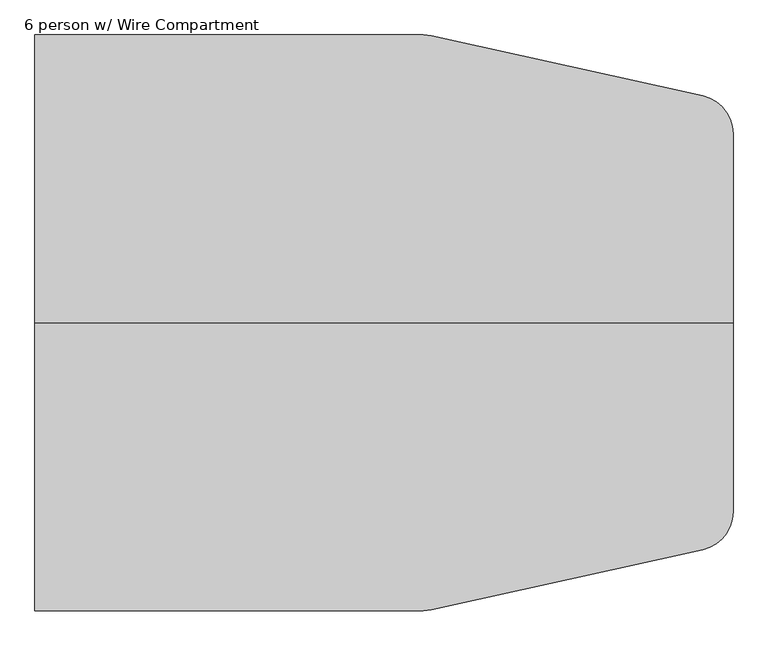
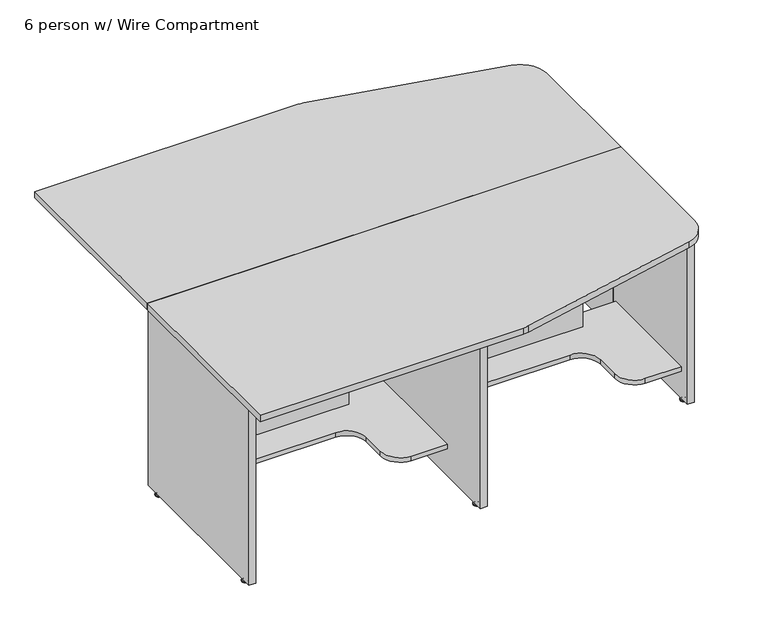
"""IFC4 building model written with IfcOpenShell, lengths in millimetres: furniture geometry, Nova Solutions - Collaboration Table - Boat_6-8 person : 6 person w/ Wire Compartment."""

from ifc_helpers import new_model, si_unit, point, frame, frame_2d, origin, place, context, project, spatial, polyline, circle_curve, ellipse_curve, trimmed, segment, composite_curve, outline, extrude, source, transform, mapped, element, save
from ifc_brep_helpers import plane_surface, cylinder_surface, revolved_surface, advanced_brep


def furniture_6_person_w_wire_compartment_cabafdbb(model_context):
    return source(origin(), model_context, "Body", "SolidModel", [
        advanced_brep(
        [(916.6776506, 448.9859375, 11.1125), (910.0, 448.9859375, 11.1125), (903.3223494, 448.9859375, 11.1125), (916.6776506, 448.9859375, 9.525), (903.3223494, 448.9859375, 9.525), (921.8855135, 448.9859375, 4.7748687), (898.1144865, 448.9859375, 4.7748687), (922.7466506, 448.9859375, 3.989419), (897.2533494, 448.9859375, 3.989419), (922.7466506, 448.9859375, 3.175), (897.2533494, 448.9859375, 3.175), (921.8959119, 448.9859375, 0.0), (898.1040881, 448.9859375, 0.0), (910.0, 448.9859375, 0.0)],
        [
            (0, 1),
            (1, 2),
            (2, 0, circle_curve(frame((910.0, 448.9859375, 11.1125), z_axis=(0.0, 0.0, 1.0), x_axis=(-1.0, 0.0, 0.0)), 6.6776506)),
            (0, 2, circle_curve(frame((910.0, 448.9859375, 11.1125), z_axis=(0.0, 0.0, 1.0), x_axis=(-1.0, 0.0, 0.0)), 6.6776506)),
            (3, 0),
            (2, 4),
            (4, 3, circle_curve(frame((910.0, 448.9859375, 9.525), z_axis=(0.0, 0.0, 1.0), x_axis=(-1.0, 0.0, 0.0)), 6.6776506)),
            (3, 4, circle_curve(frame((910.0, 448.9859375, 9.525), z_axis=(0.0, 0.0, 1.0), x_axis=(-1.0, 0.0, 0.0)), 6.6776506)),
            (5, 3, circle_curve(frame((922.9320627, 448.9859375, 11.1521822), z_axis=(0.0, 1.0, 0.0), x_axis=(-1.0, 0.0, 0.0)), 6.462615)),
            (4, 6, circle_curve(frame((897.0679373, 448.9859375, 11.1521822), z_axis=(0.0, 1.0, 0.0), x_axis=(1.0, 0.0, 0.0)), 6.462615)),
            (6, 5, circle_curve(frame((910.0, 448.9859375, 4.7748687), z_axis=(0.0, 0.0, 1.0), x_axis=(-1.0, 0.0, 0.0)), 11.8855135)),
            (5, 6, circle_curve(frame((910.0, 448.9859375, 4.7748687), z_axis=(0.0, 0.0, 1.0), x_axis=(-1.0, 0.0, 0.0)), 11.8855135)),
            (7, 5, circle_curve(frame((921.7124632, 448.9859375, 3.7203591), z_axis=(0.0, -1.0, 0.0), x_axis=(-1.0, 0.0, 0.0)), 1.0686145)),
            (6, 8, circle_curve(frame((898.2875368, 448.9859375, 3.7203591), z_axis=(0.0, -1.0, 0.0), x_axis=(1.0, 0.0, 0.0)), 1.0686145)),
            (8, 7, circle_curve(frame((910.0, 448.9859375, 3.989419), z_axis=(0.0, 0.0, 1.0), x_axis=(-1.0, 0.0, 0.0)), 12.7466506)),
            (7, 8, circle_curve(frame((910.0, 448.9859375, 3.989419), z_axis=(0.0, 0.0, 1.0), x_axis=(-1.0, 0.0, 0.0)), 12.7466506)),
            (9, 7),
            (8, 10),
            (10, 9, circle_curve(frame((910.0, 448.9859375, 3.175), z_axis=(0.0, 0.0, 1.0), x_axis=(-1.0, 0.0, 0.0)), 12.7466506)),
            (9, 10, circle_curve(frame((910.0, 448.9859375, 3.175), z_axis=(0.0, 0.0, 1.0), x_axis=(-1.0, 0.0, 0.0)), 12.7466506)),
            (11, 9),
            (10, 12),
            (12, 11, circle_curve(frame((910.0, 448.9859375, 0.0), z_axis=(0.0, 0.0, 1.0), x_axis=(-1.0, 0.0, 0.0)), 11.8959119)),
            (11, 12, circle_curve(frame((910.0, 448.9859375, 0.0), z_axis=(0.0, 0.0, 1.0), x_axis=(-1.0, 0.0, 0.0)), 11.8959119)),
            (13, 11),
            (12, 13),
        ],
        [
            plane_surface(frame((910.0, 448.9859375, 11.1125), z_axis=(0.0, 0.0, 1.0), x_axis=(-1.0, 0.0, 0.0))),
            cylinder_surface(frame((910.0, 448.9859375, 43.2095994), z_axis=(0.0, 0.0, -1.0), x_axis=(-1.0, 0.0, 0.0)), 6.6776506),
            revolved_surface(trimmed(ellipse_curve(frame((897.0679373, 448.9859375, 11.1521822), z_axis=(0.0, 1.0, 0.0), x_axis=(1.0, 0.0, 0.0)), 6.462615, 6.462615), [point((903.3223494, 448.9859375, 9.525))], [point((898.1144865, 448.9859375, 4.7748687))], True, "CARTESIAN"), (910.0, 448.9859375, 43.2095994), (0.0, 0.0, -1.0)),
            revolved_surface(trimmed(ellipse_curve(frame((898.2875368, 448.9859375, 3.7203591), z_axis=(0.0, -1.0, 0.0), x_axis=(1.0, 0.0, 0.0)), 1.0686145, 1.0686145), [point((898.1144865, 448.9859375, 4.7748687))], [point((897.2533494, 448.9859375, 3.989419))], True, "CARTESIAN"), (910.0, 448.9859375, 43.2095994), (0.0, 0.0, -1.0)),
            cylinder_surface(frame((910.0, 448.9859375, 43.2095994), z_axis=(0.0, 0.0, -1.0), x_axis=(-1.0, 0.0, 0.0)), 12.7466506),
            revolved_surface(polyline([(897.2533494, 448.9859375, 3.175), (898.1040881, 448.9859375, 0.0)]), (910.0, 448.9859375, 43.2095994), (0.0, 0.0, -1.0)),
            plane_surface(frame((910.0, 448.9859375, 0.0), z_axis=(0.0, 0.0, -1.0), x_axis=(-1.0, 0.0, 0.0))),
        ],
        [
            (0, [[1, 2, 3]]),
            (0, [[-2, -1, 4]]),
            (1, [[5, -3, 6, 7]]),
            (1, [[-6, -4, -5, 8]]),
            (2, [[9, -7, 10, 11]]),
            (2, [[-10, -8, -9, 12]]),
            (3, [[13, -11, 14, 15]]),
            (3, [[-14, -12, -13, 16]]),
            (4, [[17, -15, 18, 19]]),
            (4, [[-18, -16, -17, 20]]),
            (5, [[21, -19, 22, 23]]),
            (5, [[-22, -20, -21, 24]]),
            (6, [[25, -23, 26]]),
            (6, [[-26, -24, -25]]),
        ],
    ),
        advanced_brep(
        [(916.6776506, 50.4140625, 11.1125), (910.0, 50.4140625, 11.1125), (903.3223494, 50.4140625, 11.1125), (916.6776506, 50.4140625, 9.525), (903.3223494, 50.4140625, 9.525), (921.8855135, 50.4140625, 4.7748687), (898.1144865, 50.4140625, 4.7748687), (922.7466506, 50.4140625, 3.989419), (897.2533494, 50.4140625, 3.989419), (922.7466506, 50.4140625, 3.175), (897.2533494, 50.4140625, 3.175), (921.8959119, 50.4140625, 0.0), (898.1040881, 50.4140625, 0.0), (910.0, 50.4140625, 0.0)],
        [
            (0, 1),
            (1, 2),
            (2, 0, circle_curve(frame((910.0, 50.4140625, 11.1125), z_axis=(0.0, 0.0, 1.0), x_axis=(-1.0, 0.0, 0.0)), 6.6776506)),
            (0, 2, circle_curve(frame((910.0, 50.4140625, 11.1125), z_axis=(0.0, 0.0, 1.0), x_axis=(-1.0, 0.0, 0.0)), 6.6776506)),
            (3, 0),
            (2, 4),
            (4, 3, circle_curve(frame((910.0, 50.4140625, 9.525), z_axis=(0.0, 0.0, 1.0), x_axis=(-1.0, 0.0, 0.0)), 6.6776506)),
            (3, 4, circle_curve(frame((910.0, 50.4140625, 9.525), z_axis=(0.0, 0.0, 1.0), x_axis=(-1.0, 0.0, 0.0)), 6.6776506)),
            (5, 3, circle_curve(frame((922.9320627, 50.4140625, 11.1521822), z_axis=(0.0, 1.0, 0.0), x_axis=(-1.0, 0.0, 0.0)), 6.462615)),
            (4, 6, circle_curve(frame((897.0679373, 50.4140625, 11.1521822), z_axis=(0.0, 1.0, 0.0), x_axis=(1.0, 0.0, 0.0)), 6.462615)),
            (6, 5, circle_curve(frame((910.0, 50.4140625, 4.7748687), z_axis=(0.0, 0.0, 1.0), x_axis=(-1.0, 0.0, 0.0)), 11.8855135)),
            (5, 6, circle_curve(frame((910.0, 50.4140625, 4.7748687), z_axis=(0.0, 0.0, 1.0), x_axis=(-1.0, 0.0, 0.0)), 11.8855135)),
            (7, 5, circle_curve(frame((921.7124632, 50.4140625, 3.7203591), z_axis=(0.0, -1.0, 0.0), x_axis=(-1.0, 0.0, 0.0)), 1.0686145)),
            (6, 8, circle_curve(frame((898.2875368, 50.4140625, 3.7203591), z_axis=(0.0, -1.0, 0.0), x_axis=(1.0, 0.0, 0.0)), 1.0686145)),
            (8, 7, circle_curve(frame((910.0, 50.4140625, 3.989419), z_axis=(0.0, 0.0, 1.0), x_axis=(-1.0, 0.0, 0.0)), 12.7466506)),
            (7, 8, circle_curve(frame((910.0, 50.4140625, 3.989419), z_axis=(0.0, 0.0, 1.0), x_axis=(-1.0, 0.0, 0.0)), 12.7466506)),
            (9, 7),
            (8, 10),
            (10, 9, circle_curve(frame((910.0, 50.4140625, 3.175), z_axis=(0.0, 0.0, 1.0), x_axis=(-1.0, 0.0, 0.0)), 12.7466506)),
            (9, 10, circle_curve(frame((910.0, 50.4140625, 3.175), z_axis=(0.0, 0.0, 1.0), x_axis=(-1.0, 0.0, 0.0)), 12.7466506)),
            (11, 9),
            (10, 12),
            (12, 11, circle_curve(frame((910.0, 50.4140625, 0.0), z_axis=(0.0, 0.0, 1.0), x_axis=(-1.0, 0.0, 0.0)), 11.8959119)),
            (11, 12, circle_curve(frame((910.0, 50.4140625, 0.0), z_axis=(0.0, 0.0, 1.0), x_axis=(-1.0, 0.0, 0.0)), 11.8959119)),
            (13, 11),
            (12, 13),
        ],
        [
            plane_surface(frame((910.0, 50.4140625, 11.1125), z_axis=(0.0, 0.0, 1.0), x_axis=(-1.0, 0.0, 0.0))),
            cylinder_surface(frame((910.0, 50.4140625, 43.2095994), z_axis=(0.0, 0.0, -1.0), x_axis=(-1.0, 0.0, 0.0)), 6.6776506),
            revolved_surface(trimmed(ellipse_curve(frame((897.0679373, 50.4140625, 11.1521822), z_axis=(0.0, 1.0, 0.0), x_axis=(1.0, 0.0, 0.0)), 6.462615, 6.462615), [point((903.3223494, 50.4140625, 9.525))], [point((898.1144865, 50.4140625, 4.7748687))], True, "CARTESIAN"), (910.0, 50.4140625, 43.2095994), (0.0, 0.0, -1.0)),
            revolved_surface(trimmed(ellipse_curve(frame((898.2875368, 50.4140625, 3.7203591), z_axis=(0.0, -1.0, 0.0), x_axis=(1.0, 0.0, 0.0)), 1.0686145, 1.0686145), [point((898.1144865, 50.4140625, 4.7748687))], [point((897.2533494, 50.4140625, 3.989419))], True, "CARTESIAN"), (910.0, 50.4140625, 43.2095994), (0.0, 0.0, -1.0)),
            cylinder_surface(frame((910.0, 50.4140625, 43.2095994), z_axis=(0.0, 0.0, -1.0), x_axis=(-1.0, 0.0, 0.0)), 12.7466506),
            revolved_surface(polyline([(897.2533494, 50.4140625, 3.175), (898.1040881, 50.4140625, 0.0)]), (910.0, 50.4140625, 43.2095994), (0.0, 0.0, -1.0)),
            plane_surface(frame((910.0, 50.4140625, 0.0), z_axis=(0.0, 0.0, -1.0), x_axis=(-1.0, 0.0, 0.0))),
        ],
        [
            (0, [[1, 2, 3]]),
            (0, [[-2, -1, 4]]),
            (1, [[5, -3, 6, 7]]),
            (1, [[-6, -4, -5, 8]]),
            (2, [[9, -7, 10, 11]]),
            (2, [[-10, -8, -9, 12]]),
            (3, [[13, -11, 14, 15]]),
            (3, [[-14, -12, -13, 16]]),
            (4, [[17, -15, 18, 19]]),
            (4, [[-18, -16, -17, 20]]),
            (5, [[21, -19, 22, 23]]),
            (5, [[-22, -20, -21, 24]]),
            (6, [[25, -23, 26]]),
            (6, [[-26, -24, -25]]),
        ],
    ),
        extrude(outline(polyline([(922.85, 1.4), (897.15, 1.4), (897.15, 498.0), (922.85, 498.0), (922.85, 1.4)])), frame((0.0, 0.0, 15.6), z_axis=(0.0, 0.0, 1.0), x_axis=(1.0, 0.0, 0.0)), (0.0, 0.0, 1.0), 720.7),
        extrude(outline(composite_curve([segment(trimmed(circle_curve(frame_2d((108.0350272, 656.4)), 101.6), [point((108.0350272, 758.0))], [point((130.025292, 755.5916743))], False, "CARTESIAN"), True, "CONTINUOUS"), segment(polyline([(130.025292, 755.5916743), (844.6402648, 597.165349)]), True, "CONTINUOUS"), segment(trimmed(circle_curve(frame_2d((822.65, 497.9736747)), 101.6), [point((844.6402648, 597.165349))], [point((924.25, 497.9736747))], False, "CARTESIAN"), True, "CONTINUOUS"), segment(polyline([(924.25, 497.9736747), (924.25, 0.0), (-914.276, 0.0), (-914.276, 758.0), (108.0350272, 758.0)]), True, "CONTINUOUS")], self_intersect=False)), frame((0.0, 0.0, 736.3), z_axis=(0.0, 0.0, 1.0), x_axis=(1.0, 0.0, 0.0)), (0.0, 0.0, 1.0), 25.7),
        extrude(outline(polyline([(736.3, -887.176), (145.5, -887.176), (145.5, -183.85), (507.4, -183.85), (507.4, -12.85), (736.3, -12.85), (736.3, -887.176)])), frame((0.0, -88.6, 0.0), z_axis=(0.0, 1.0, 0.0), x_axis=(0.0, 0.0, 1.0)), (0.0, 0.0, 1.0), 19.2),
        extrude(outline(composite_curve([segment(polyline([(-887.176, -14.1), (-12.85, -14.1), (-12.85, -457.2625), (-152.65, -457.2625)]), True, "CONTINUOUS"), segment(trimmed(circle_curve(frame_2d((-152.65, -381.0625)), 76.2), [point((-152.65, -457.2625))], [point((-228.85, -381.0625))], False, "CARTESIAN"), True, "CONTINUOUS"), segment(polyline([(-228.85, -381.0625), (-228.85, -286.6)]), True, "CONTINUOUS"), segment(trimmed(circle_curve(frame_2d((-305.05, -286.6)), 76.2), [point((-228.85, -286.6))], [point((-305.05, -210.4))], True, "CARTESIAN"), True, "CONTINUOUS"), segment(polyline([(-305.05, -210.4), (-887.176, -210.4), (-887.176, -14.1)]), True, "CONTINUOUS")], self_intersect=False)), frame((0.0, 0.0, 126.3), z_axis=(0.0, 0.0, 1.0), x_axis=(1.0, 0.0, 0.0)), (0.0, 0.0, 1.0), 19.2),
        advanced_brep(
        [(-906.7036506, -631.3859375, 11.1125), (-900.026, -631.3859375, 11.1125), (-893.3483494, -631.3859375, 11.1125), (-906.7036506, -631.3859375, 9.525), (-893.3483494, -631.3859375, 9.525), (-911.9115135, -631.3859375, 4.7748687), (-888.1404865, -631.3859375, 4.7748687), (-912.7726506, -631.3859375, 3.989419), (-887.2793494, -631.3859375, 3.989419), (-912.7726506, -631.3859375, 3.175), (-887.2793494, -631.3859375, 3.175), (-911.9219119, -631.3859375, 0.0), (-888.1300881, -631.3859375, 0.0), (-900.026, -631.3859375, 0.0)],
        [
            (0, 1),
            (1, 2),
            (2, 0, circle_curve(frame((-900.026, -631.3859375, 11.1125), z_axis=(0.0, 0.0, 1.0), x_axis=(1.0, 0.0, 0.0)), 6.6776506)),
            (0, 2, circle_curve(frame((-900.026, -631.3859375, 11.1125), z_axis=(0.0, 0.0, 1.0), x_axis=(1.0, 0.0, 0.0)), 6.6776506)),
            (3, 0),
            (2, 4),
            (4, 3, circle_curve(frame((-900.026, -631.3859375, 9.525), z_axis=(0.0, 0.0, 1.0), x_axis=(1.0, 0.0, 0.0)), 6.6776506)),
            (3, 4, circle_curve(frame((-900.026, -631.3859375, 9.525), z_axis=(0.0, 0.0, 1.0), x_axis=(1.0, 0.0, 0.0)), 6.6776506)),
            (5, 3, circle_curve(frame((-912.9580627, -631.3859375, 11.1521822), z_axis=(0.0, -1.0, 0.0), x_axis=(1.0, 0.0, 0.0)), 6.462615)),
            (4, 6, circle_curve(frame((-887.0939373, -631.3859375, 11.1521822), z_axis=(0.0, -1.0, 0.0), x_axis=(-1.0, 0.0, 0.0)), 6.462615)),
            (6, 5, circle_curve(frame((-900.026, -631.3859375, 4.7748687), z_axis=(0.0, 0.0, 1.0), x_axis=(1.0, 0.0, 0.0)), 11.8855135)),
            (5, 6, circle_curve(frame((-900.026, -631.3859375, 4.7748687), z_axis=(0.0, 0.0, 1.0), x_axis=(1.0, 0.0, 0.0)), 11.8855135)),
            (7, 5, circle_curve(frame((-911.7384632, -631.3859375, 3.7203591), z_axis=(0.0, 1.0, 0.0), x_axis=(1.0, 0.0, 0.0)), 1.0686145)),
            (6, 8, circle_curve(frame((-888.3135368, -631.3859375, 3.7203591), z_axis=(0.0, 1.0, 0.0), x_axis=(-1.0, 0.0, 0.0)), 1.0686145)),
            (8, 7, circle_curve(frame((-900.026, -631.3859375, 3.989419), z_axis=(0.0, 0.0, 1.0), x_axis=(1.0, 0.0, 0.0)), 12.7466506)),
            (7, 8, circle_curve(frame((-900.026, -631.3859375, 3.989419), z_axis=(0.0, 0.0, 1.0), x_axis=(1.0, 0.0, 0.0)), 12.7466506)),
            (9, 7),
            (8, 10),
            (10, 9, circle_curve(frame((-900.026, -631.3859375, 3.175), z_axis=(0.0, 0.0, 1.0), x_axis=(1.0, 0.0, 0.0)), 12.7466506)),
            (9, 10, circle_curve(frame((-900.026, -631.3859375, 3.175), z_axis=(0.0, 0.0, 1.0), x_axis=(1.0, 0.0, 0.0)), 12.7466506)),
            (11, 9),
            (10, 12),
            (12, 11, circle_curve(frame((-900.026, -631.3859375, 0.0), z_axis=(0.0, 0.0, 1.0), x_axis=(1.0, 0.0, 0.0)), 11.8959119)),
            (11, 12, circle_curve(frame((-900.026, -631.3859375, 0.0), z_axis=(0.0, 0.0, 1.0), x_axis=(1.0, 0.0, 0.0)), 11.8959119)),
            (13, 11),
            (12, 13),
        ],
        [
            plane_surface(frame((-900.026, -631.3859375, 11.1125), z_axis=(0.0, 0.0, 1.0), x_axis=(1.0, 0.0, 0.0))),
            cylinder_surface(frame((-900.026, -631.3859375, 43.2095994), z_axis=(0.0, 0.0, -1.0), x_axis=(1.0, 0.0, 0.0)), 6.6776506),
            revolved_surface(trimmed(ellipse_curve(frame((-887.0939373, -631.3859375, 11.1521822), z_axis=(0.0, -1.0, 0.0), x_axis=(-1.0, 0.0, 0.0)), 6.462615, 6.462615), [point((-893.3483494, -631.3859375, 9.525))], [point((-888.1404865, -631.3859375, 4.7748687))], True, "CARTESIAN"), (-900.026, -631.3859375, 43.2095994), (0.0, 0.0, -1.0)),
            revolved_surface(trimmed(ellipse_curve(frame((-888.3135368, -631.3859375, 3.7203591), z_axis=(0.0, 1.0, 0.0), x_axis=(-1.0, 0.0, 0.0)), 1.0686145, 1.0686145), [point((-888.1404865, -631.3859375, 4.7748687))], [point((-887.2793494, -631.3859375, 3.989419))], True, "CARTESIAN"), (-900.026, -631.3859375, 43.2095994), (0.0, 0.0, -1.0)),
            cylinder_surface(frame((-900.026, -631.3859375, 43.2095994), z_axis=(0.0, 0.0, -1.0), x_axis=(1.0, 0.0, 0.0)), 12.7466506),
            revolved_surface(polyline([(-887.2793494, -631.3859375, 3.175), (-888.1300881, -631.3859375, 0.0)]), (-900.026, -631.3859375, 43.2095994), (0.0, 0.0, -1.0)),
            plane_surface(frame((-900.026, -631.3859375, 0.0), z_axis=(0.0, 0.0, -1.0), x_axis=(1.0, 0.0, 0.0))),
        ],
        [
            (0, [[1, 2, 3]]),
            (0, [[-2, -1, 4]]),
            (1, [[5, -3, 6, 7]]),
            (1, [[-6, -4, -5, 8]]),
            (2, [[9, -7, 10, 11]]),
            (2, [[-10, -8, -9, 12]]),
            (3, [[13, -11, 14, 15]]),
            (3, [[-14, -12, -13, 16]]),
            (4, [[17, -15, 18, 19]]),
            (4, [[-18, -16, -17, 20]]),
            (5, [[21, -19, 22, 23]]),
            (5, [[-22, -20, -21, 24]]),
            (6, [[25, -23, 26]]),
            (6, [[-26, -24, -25]]),
        ],
    ),
        advanced_brep(
        [(-906.7036506, -50.4140625, 11.1125), (-900.026, -50.4140625, 11.1125), (-893.3483494, -50.4140625, 11.1125), (-906.7036506, -50.4140625, 9.525), (-893.3483494, -50.4140625, 9.525), (-911.9115135, -50.4140625, 4.7748687), (-888.1404865, -50.4140625, 4.7748687), (-912.7726506, -50.4140625, 3.989419), (-887.2793494, -50.4140625, 3.989419), (-912.7726506, -50.4140625, 3.175), (-887.2793494, -50.4140625, 3.175), (-911.9219119, -50.4140625, 0.0), (-888.1300881, -50.4140625, 0.0), (-900.026, -50.4140625, 0.0)],
        [
            (0, 1),
            (1, 2),
            (2, 0, circle_curve(frame((-900.026, -50.4140625, 11.1125), z_axis=(0.0, 0.0, 1.0), x_axis=(1.0, 0.0, 0.0)), 6.6776506)),
            (0, 2, circle_curve(frame((-900.026, -50.4140625, 11.1125), z_axis=(0.0, 0.0, 1.0), x_axis=(1.0, 0.0, 0.0)), 6.6776506)),
            (3, 0),
            (2, 4),
            (4, 3, circle_curve(frame((-900.026, -50.4140625, 9.525), z_axis=(0.0, 0.0, 1.0), x_axis=(1.0, 0.0, 0.0)), 6.6776506)),
            (3, 4, circle_curve(frame((-900.026, -50.4140625, 9.525), z_axis=(0.0, 0.0, 1.0), x_axis=(1.0, 0.0, 0.0)), 6.6776506)),
            (5, 3, circle_curve(frame((-912.9580627, -50.4140625, 11.1521822), z_axis=(0.0, -1.0, 0.0), x_axis=(1.0, 0.0, 0.0)), 6.462615)),
            (4, 6, circle_curve(frame((-887.0939373, -50.4140625, 11.1521822), z_axis=(0.0, -1.0, 0.0), x_axis=(-1.0, 0.0, 0.0)), 6.462615)),
            (6, 5, circle_curve(frame((-900.026, -50.4140625, 4.7748687), z_axis=(0.0, 0.0, 1.0), x_axis=(1.0, 0.0, 0.0)), 11.8855135)),
            (5, 6, circle_curve(frame((-900.026, -50.4140625, 4.7748687), z_axis=(0.0, 0.0, 1.0), x_axis=(1.0, 0.0, 0.0)), 11.8855135)),
            (7, 5, circle_curve(frame((-911.7384632, -50.4140625, 3.7203591), z_axis=(0.0, 1.0, 0.0), x_axis=(1.0, 0.0, 0.0)), 1.0686145)),
            (6, 8, circle_curve(frame((-888.3135368, -50.4140625, 3.7203591), z_axis=(0.0, 1.0, 0.0), x_axis=(-1.0, 0.0, 0.0)), 1.0686145)),
            (8, 7, circle_curve(frame((-900.026, -50.4140625, 3.989419), z_axis=(0.0, 0.0, 1.0), x_axis=(1.0, 0.0, 0.0)), 12.7466506)),
            (7, 8, circle_curve(frame((-900.026, -50.4140625, 3.989419), z_axis=(0.0, 0.0, 1.0), x_axis=(1.0, 0.0, 0.0)), 12.7466506)),
            (9, 7),
            (8, 10),
            (10, 9, circle_curve(frame((-900.026, -50.4140625, 3.175), z_axis=(0.0, 0.0, 1.0), x_axis=(1.0, 0.0, 0.0)), 12.7466506)),
            (9, 10, circle_curve(frame((-900.026, -50.4140625, 3.175), z_axis=(0.0, 0.0, 1.0), x_axis=(1.0, 0.0, 0.0)), 12.7466506)),
            (11, 9),
            (10, 12),
            (12, 11, circle_curve(frame((-900.026, -50.4140625, 0.0), z_axis=(0.0, 0.0, 1.0), x_axis=(1.0, 0.0, 0.0)), 11.8959119)),
            (11, 12, circle_curve(frame((-900.026, -50.4140625, 0.0), z_axis=(0.0, 0.0, 1.0), x_axis=(1.0, 0.0, 0.0)), 11.8959119)),
            (13, 11),
            (12, 13),
        ],
        [
            plane_surface(frame((-900.026, -50.4140625, 11.1125), z_axis=(0.0, 0.0, 1.0), x_axis=(1.0, 0.0, 0.0))),
            cylinder_surface(frame((-900.026, -50.4140625, 43.2095994), z_axis=(0.0, 0.0, -1.0), x_axis=(1.0, 0.0, 0.0)), 6.6776506),
            revolved_surface(trimmed(ellipse_curve(frame((-887.0939373, -50.4140625, 11.1521822), z_axis=(0.0, -1.0, 0.0), x_axis=(-1.0, 0.0, 0.0)), 6.462615, 6.462615), [point((-893.3483494, -50.4140625, 9.525))], [point((-888.1404865, -50.4140625, 4.7748687))], True, "CARTESIAN"), (-900.026, -50.4140625, 43.2095994), (0.0, 0.0, -1.0)),
            revolved_surface(trimmed(ellipse_curve(frame((-888.3135368, -50.4140625, 3.7203591), z_axis=(0.0, 1.0, 0.0), x_axis=(-1.0, 0.0, 0.0)), 1.0686145, 1.0686145), [point((-888.1404865, -50.4140625, 4.7748687))], [point((-887.2793494, -50.4140625, 3.989419))], True, "CARTESIAN"), (-900.026, -50.4140625, 43.2095994), (0.0, 0.0, -1.0)),
            cylinder_surface(frame((-900.026, -50.4140625, 43.2095994), z_axis=(0.0, 0.0, -1.0), x_axis=(1.0, 0.0, 0.0)), 12.7466506),
            revolved_surface(polyline([(-887.2793494, -50.4140625, 3.175), (-888.1300881, -50.4140625, 0.0)]), (-900.026, -50.4140625, 43.2095994), (0.0, 0.0, -1.0)),
            plane_surface(frame((-900.026, -50.4140625, 0.0), z_axis=(0.0, 0.0, -1.0), x_axis=(1.0, 0.0, 0.0))),
        ],
        [
            (0, [[1, 2, 3]]),
            (0, [[-2, -1, 4]]),
            (1, [[5, -3, 6, 7]]),
            (1, [[-6, -4, -5, 8]]),
            (2, [[9, -7, 10, 11]]),
            (2, [[-10, -8, -9, 12]]),
            (3, [[13, -11, 14, 15]]),
            (3, [[-14, -12, -13, 16]]),
            (4, [[17, -15, 18, 19]]),
            (4, [[-18, -16, -17, 20]]),
            (5, [[21, -19, 22, 23]]),
            (5, [[-22, -20, -21, 24]]),
            (6, [[25, -23, 26]]),
            (6, [[-26, -24, -25]]),
        ],
    ),
        extrude(outline(polyline([(-912.876, -1.4), (-887.176, -1.4), (-887.176, -680.4), (-912.876, -680.4), (-912.876, -1.4)])), frame((0.0, 0.0, 15.6), z_axis=(0.0, 0.0, 1.0), x_axis=(1.0, 0.0, 0.0)), (0.0, 0.0, 1.0), 720.7),
        advanced_brep(
        [(6.6776506, -631.3859375, 11.1125), (-6.6776506, -631.3859375, 11.1125), (0.0, -631.3859375, 11.1125), (6.6776506, -631.3859375, 9.525), (-6.6776506, -631.3859375, 9.525), (11.8855135, -631.3859375, 4.7748687), (-11.8855135, -631.3859375, 4.7748687), (12.7466506, -631.3859375, 3.989419), (-12.7466506, -631.3859375, 3.989419), (12.7466506, -631.3859375, 3.175), (-12.7466506, -631.3859375, 3.175), (11.8959119, -631.3859375, 0.0), (-11.8959119, -631.3859375, 0.0), (0.0, -631.3859375, 0.0)],
        [
            (0, 1, circle_curve(frame((0.0, -631.3859375, 11.1125), z_axis=(0.0, 0.0, 1.0), x_axis=(-1.0, 0.0, 0.0)), 6.6776506)),
            (1, 2),
            (2, 0),
            (1, 0, circle_curve(frame((0.0, -631.3859375, 11.1125), z_axis=(0.0, 0.0, 1.0), x_axis=(-1.0, 0.0, 0.0)), 6.6776506)),
            (3, 4, circle_curve(frame((0.0, -631.3859375, 9.525), z_axis=(0.0, 0.0, 1.0), x_axis=(-1.0, 0.0, 0.0)), 6.6776506)),
            (4, 1),
            (0, 3),
            (4, 3, circle_curve(frame((0.0, -631.3859375, 9.525), z_axis=(0.0, 0.0, 1.0), x_axis=(-1.0, 0.0, 0.0)), 6.6776506)),
            (5, 6, circle_curve(frame((0.0, -631.3859375, 4.7748687), z_axis=(0.0, 0.0, 1.0), x_axis=(-1.0, 0.0, 0.0)), 11.8855135)),
            (6, 4, circle_curve(frame((-12.9320627, -631.3859375, 11.1521822), z_axis=(0.0, -1.0, 0.0), x_axis=(1.0, 0.0, 0.0)), 6.462615)),
            (3, 5, circle_curve(frame((12.9320627, -631.3859375, 11.1521822), z_axis=(0.0, -1.0, 0.0), x_axis=(-1.0, 0.0, 0.0)), 6.462615)),
            (6, 5, circle_curve(frame((0.0, -631.3859375, 4.7748687), z_axis=(0.0, 0.0, 1.0), x_axis=(-1.0, 0.0, 0.0)), 11.8855135)),
            (7, 8, circle_curve(frame((0.0, -631.3859375, 3.989419), z_axis=(0.0, 0.0, 1.0), x_axis=(-1.0, 0.0, 0.0)), 12.7466506)),
            (8, 6, circle_curve(frame((-11.7124632, -631.3859375, 3.7203591), z_axis=(0.0, 1.0, 0.0), x_axis=(1.0, 0.0, 0.0)), 1.0686145)),
            (5, 7, circle_curve(frame((11.7124632, -631.3859375, 3.7203591), z_axis=(0.0, 1.0, 0.0), x_axis=(-1.0, 0.0, 0.0)), 1.0686145)),
            (8, 7, circle_curve(frame((0.0, -631.3859375, 3.989419), z_axis=(0.0, 0.0, 1.0), x_axis=(-1.0, 0.0, 0.0)), 12.7466506)),
            (9, 10, circle_curve(frame((0.0, -631.3859375, 3.175), z_axis=(0.0, 0.0, 1.0), x_axis=(-1.0, 0.0, 0.0)), 12.7466506)),
            (10, 8),
            (7, 9),
            (10, 9, circle_curve(frame((0.0, -631.3859375, 3.175), z_axis=(0.0, 0.0, 1.0), x_axis=(-1.0, 0.0, 0.0)), 12.7466506)),
            (11, 12, circle_curve(frame((0.0, -631.3859375, 0.0), z_axis=(0.0, 0.0, 1.0), x_axis=(-1.0, 0.0, 0.0)), 11.8959119)),
            (12, 10),
            (9, 11),
            (12, 11, circle_curve(frame((0.0, -631.3859375, 0.0), z_axis=(0.0, 0.0, 1.0), x_axis=(-1.0, 0.0, 0.0)), 11.8959119)),
            (13, 12),
            (11, 13),
        ],
        [
            plane_surface(frame((0.0, -631.3859375, 11.1125), z_axis=(0.0, 0.0, 1.0), x_axis=(-1.0, 0.0, 0.0))),
            cylinder_surface(frame((0.0, -631.3859375, 43.2095994), z_axis=(0.0, 0.0, -1.0), x_axis=(-1.0, 0.0, 0.0)), 6.6776506),
            revolved_surface(trimmed(ellipse_curve(frame((-12.9320627, -631.3859375, 11.1521822), z_axis=(0.0, 1.0, 0.0), x_axis=(1.0, 0.0, 0.0)), 6.462615, 6.462615), [point((-6.6776506, -631.3859375, 9.525))], [point((-11.8855135, -631.3859375, 4.7748687))], True, "CARTESIAN"), (0.0, -631.3859375, 43.2095994), (0.0, 0.0, -1.0)),
            revolved_surface(trimmed(ellipse_curve(frame((-11.7124632, -631.3859375, 3.7203591), z_axis=(0.0, -1.0, 0.0), x_axis=(1.0, 0.0, 0.0)), 1.0686145, 1.0686145), [point((-11.8855135, -631.3859375, 4.7748687))], [point((-12.7466506, -631.3859375, 3.989419))], True, "CARTESIAN"), (0.0, -631.3859375, 43.2095994), (0.0, 0.0, -1.0)),
            cylinder_surface(frame((0.0, -631.3859375, 43.2095994), z_axis=(0.0, 0.0, -1.0), x_axis=(-1.0, 0.0, 0.0)), 12.7466506),
            revolved_surface(polyline([(-12.7466506, -631.3859375, 3.175), (-11.8959119, -631.3859375, 0.0)]), (0.0, -631.3859375, 43.2095994), (0.0, 0.0, -1.0)),
            plane_surface(frame((0.0, -631.3859375, 0.0), z_axis=(0.0, 0.0, -1.0), x_axis=(-1.0, 0.0, 0.0))),
        ],
        [
            (0, [[1, 2, 3]]),
            (0, [[4, -3, -2]]),
            (1, [[5, 6, -1, 7]]),
            (1, [[8, -7, -4, -6]]),
            (2, [[9, 10, -5, 11]]),
            (2, [[12, -11, -8, -10]]),
            (3, [[13, 14, -9, 15]]),
            (3, [[16, -15, -12, -14]]),
            (4, [[17, 18, -13, 19]]),
            (4, [[20, -19, -16, -18]]),
            (5, [[21, 22, -17, 23]]),
            (5, [[24, -23, -20, -22]]),
            (6, [[25, -21, 26]]),
            (6, [[-26, -24, -25]]),
        ],
    ),
        advanced_brep(
        [(6.6776506, -50.4140625, 11.1125), (-6.6776506, -50.4140625, 11.1125), (0.0, -50.4140625, 11.1125), (6.6776506, -50.4140625, 9.525), (-6.6776506, -50.4140625, 9.525), (11.8855135, -50.4140625, 4.7748687), (-11.8855135, -50.4140625, 4.7748687), (12.7466506, -50.4140625, 3.989419), (-12.7466506, -50.4140625, 3.989419), (12.7466506, -50.4140625, 3.175), (-12.7466506, -50.4140625, 3.175), (11.8959119, -50.4140625, 0.0), (-11.8959119, -50.4140625, 0.0), (0.0, -50.4140625, 0.0)],
        [
            (0, 1, circle_curve(frame((0.0, -50.4140625, 11.1125), z_axis=(0.0, 0.0, 1.0), x_axis=(-1.0, 0.0, 0.0)), 6.6776506)),
            (1, 2),
            (2, 0),
            (1, 0, circle_curve(frame((0.0, -50.4140625, 11.1125), z_axis=(0.0, 0.0, 1.0), x_axis=(-1.0, 0.0, 0.0)), 6.6776506)),
            (3, 4, circle_curve(frame((0.0, -50.4140625, 9.525), z_axis=(0.0, 0.0, 1.0), x_axis=(-1.0, 0.0, 0.0)), 6.6776506)),
            (4, 1),
            (0, 3),
            (4, 3, circle_curve(frame((0.0, -50.4140625, 9.525), z_axis=(0.0, 0.0, 1.0), x_axis=(-1.0, 0.0, 0.0)), 6.6776506)),
            (5, 6, circle_curve(frame((0.0, -50.4140625, 4.7748687), z_axis=(0.0, 0.0, 1.0), x_axis=(-1.0, 0.0, 0.0)), 11.8855135)),
            (6, 4, circle_curve(frame((-12.9320627, -50.4140625, 11.1521822), z_axis=(0.0, -1.0, 0.0), x_axis=(1.0, 0.0, 0.0)), 6.462615)),
            (3, 5, circle_curve(frame((12.9320627, -50.4140625, 11.1521822), z_axis=(0.0, -1.0, 0.0), x_axis=(-1.0, 0.0, 0.0)), 6.462615)),
            (6, 5, circle_curve(frame((0.0, -50.4140625, 4.7748687), z_axis=(0.0, 0.0, 1.0), x_axis=(-1.0, 0.0, 0.0)), 11.8855135)),
            (7, 8, circle_curve(frame((0.0, -50.4140625, 3.989419), z_axis=(0.0, 0.0, 1.0), x_axis=(-1.0, 0.0, 0.0)), 12.7466506)),
            (8, 6, circle_curve(frame((-11.7124632, -50.4140625, 3.7203591), z_axis=(0.0, 1.0, 0.0), x_axis=(1.0, 0.0, 0.0)), 1.0686145)),
            (5, 7, circle_curve(frame((11.7124632, -50.4140625, 3.7203591), z_axis=(0.0, 1.0, 0.0), x_axis=(-1.0, 0.0, 0.0)), 1.0686145)),
            (8, 7, circle_curve(frame((0.0, -50.4140625, 3.989419), z_axis=(0.0, 0.0, 1.0), x_axis=(-1.0, 0.0, 0.0)), 12.7466506)),
            (9, 10, circle_curve(frame((0.0, -50.4140625, 3.175), z_axis=(0.0, 0.0, 1.0), x_axis=(-1.0, 0.0, 0.0)), 12.7466506)),
            (10, 8),
            (7, 9),
            (10, 9, circle_curve(frame((0.0, -50.4140625, 3.175), z_axis=(0.0, 0.0, 1.0), x_axis=(-1.0, 0.0, 0.0)), 12.7466506)),
            (11, 12, circle_curve(frame((0.0, -50.4140625, 0.0), z_axis=(0.0, 0.0, 1.0), x_axis=(-1.0, 0.0, 0.0)), 11.8959119)),
            (12, 10),
            (9, 11),
            (12, 11, circle_curve(frame((0.0, -50.4140625, 0.0), z_axis=(0.0, 0.0, 1.0), x_axis=(-1.0, 0.0, 0.0)), 11.8959119)),
            (13, 12),
            (11, 13),
        ],
        [
            plane_surface(frame((0.0, -50.4140625, 11.1125), z_axis=(0.0, 0.0, 1.0), x_axis=(-1.0, 0.0, 0.0))),
            cylinder_surface(frame((0.0, -50.4140625, 43.2095994), z_axis=(0.0, 0.0, -1.0), x_axis=(-1.0, 0.0, 0.0)), 6.6776506),
            revolved_surface(trimmed(ellipse_curve(frame((-12.9320627, -50.4140625, 11.1521822), z_axis=(0.0, 1.0, 0.0), x_axis=(1.0, 0.0, 0.0)), 6.462615, 6.462615), [point((-6.6776506, -50.4140625, 9.525))], [point((-11.8855135, -50.4140625, 4.7748687))], True, "CARTESIAN"), (0.0, -50.4140625, 43.2095994), (0.0, 0.0, -1.0)),
            revolved_surface(trimmed(ellipse_curve(frame((-11.7124632, -50.4140625, 3.7203591), z_axis=(0.0, -1.0, 0.0), x_axis=(1.0, 0.0, 0.0)), 1.0686145, 1.0686145), [point((-11.8855135, -50.4140625, 4.7748687))], [point((-12.7466506, -50.4140625, 3.989419))], True, "CARTESIAN"), (0.0, -50.4140625, 43.2095994), (0.0, 0.0, -1.0)),
            cylinder_surface(frame((0.0, -50.4140625, 43.2095994), z_axis=(0.0, 0.0, -1.0), x_axis=(-1.0, 0.0, 0.0)), 12.7466506),
            revolved_surface(polyline([(-12.7466506, -50.4140625, 3.175), (-11.8959119, -50.4140625, 0.0)]), (0.0, -50.4140625, 43.2095994), (0.0, 0.0, -1.0)),
            plane_surface(frame((0.0, -50.4140625, 0.0), z_axis=(0.0, 0.0, -1.0), x_axis=(-1.0, 0.0, 0.0))),
        ],
        [
            (0, [[1, 2, 3]]),
            (0, [[4, -3, -2]]),
            (1, [[5, 6, -1, 7]]),
            (1, [[8, -7, -4, -6]]),
            (2, [[9, 10, -5, 11]]),
            (2, [[12, -11, -8, -10]]),
            (3, [[13, 14, -9, 15]]),
            (3, [[16, -15, -12, -14]]),
            (4, [[17, 18, -13, 19]]),
            (4, [[20, -19, -16, -18]]),
            (5, [[21, 22, -17, 23]]),
            (5, [[24, -23, -20, -22]]),
            (6, [[25, -21, 26]]),
            (6, [[-26, -24, -25]]),
        ],
    ),
        extrude(outline(polyline([(12.85, -1.4), (12.85, -680.4), (-12.85, -680.4), (-12.85, -1.4), (12.85, -1.4)])), frame((0.0, 0.0, 15.6), z_axis=(0.0, 0.0, 1.0), x_axis=(1.0, 0.0, 0.0)), (0.0, 0.0, 1.0), 720.7),
        extrude(outline(polyline([(145.5, 12.85), (145.5, 726.15), (507.4, 726.15), (507.4, 897.15), (736.3, 897.15), (736.3, 12.85), (145.5, 12.85)])), frame((0.0, -88.6, 0.0), z_axis=(0.0, 1.0, 0.0), x_axis=(0.0, 0.0, 1.0)), (0.0, 0.0, 1.0), 19.2),
        extrude(outline(composite_curve([segment(polyline([(897.15, -457.2625), (757.35, -457.2625)]), True, "CONTINUOUS"), segment(trimmed(circle_curve(frame_2d((757.35, -381.0625)), 76.2), [point((757.35, -457.2625))], [point((681.15, -381.0625))], False, "CARTESIAN"), True, "CONTINUOUS"), segment(polyline([(681.15, -381.0625), (681.15, -286.6)]), True, "CONTINUOUS"), segment(trimmed(circle_curve(frame_2d((604.95, -286.6)), 76.2), [point((681.15, -286.6))], [point((604.95, -210.4))], True, "CARTESIAN"), True, "CONTINUOUS"), segment(polyline([(604.95, -210.4), (12.85, -210.4), (12.85, -14.1), (897.15, -14.1), (897.15, -457.2625)]), True, "CONTINUOUS")], self_intersect=False)), frame((0.0, 0.0, 126.3), z_axis=(0.0, 0.0, 1.0), x_axis=(1.0, 0.0, 0.0)), (0.0, 0.0, 1.0), 19.2),
        advanced_brep(
        [(916.6776506, -448.9859375, 11.1125), (903.3223494, -448.9859375, 11.1125), (910.0, -448.9859375, 11.1125), (916.6776506, -448.9859375, 9.525), (903.3223494, -448.9859375, 9.525), (921.8855135, -448.9859375, 4.7748687), (898.1144865, -448.9859375, 4.7748687), (922.7466506, -448.9859375, 3.989419), (897.2533494, -448.9859375, 3.989419), (922.7466506, -448.9859375, 3.175), (897.2533494, -448.9859375, 3.175), (921.8959119, -448.9859375, 0.0), (898.1040881, -448.9859375, 0.0), (910.0, -448.9859375, 0.0)],
        [
            (0, 1, circle_curve(frame((910.0, -448.9859375, 11.1125), z_axis=(0.0, 0.0, 1.0), x_axis=(-1.0, 0.0, 0.0)), 6.6776506)),
            (1, 2),
            (2, 0),
            (1, 0, circle_curve(frame((910.0, -448.9859375, 11.1125), z_axis=(0.0, 0.0, 1.0), x_axis=(-1.0, 0.0, 0.0)), 6.6776506)),
            (3, 4, circle_curve(frame((910.0, -448.9859375, 9.525), z_axis=(0.0, 0.0, 1.0), x_axis=(-1.0, 0.0, 0.0)), 6.6776506)),
            (4, 1),
            (0, 3),
            (4, 3, circle_curve(frame((910.0, -448.9859375, 9.525), z_axis=(0.0, 0.0, 1.0), x_axis=(-1.0, 0.0, 0.0)), 6.6776506)),
            (5, 6, circle_curve(frame((910.0, -448.9859375, 4.7748687), z_axis=(0.0, 0.0, 1.0), x_axis=(-1.0, 0.0, 0.0)), 11.8855135)),
            (6, 4, circle_curve(frame((897.0679373, -448.9859375, 11.1521822), z_axis=(0.0, -1.0, 0.0), x_axis=(1.0, 0.0, 0.0)), 6.462615)),
            (3, 5, circle_curve(frame((922.9320627, -448.9859375, 11.1521822), z_axis=(0.0, -1.0, 0.0), x_axis=(-1.0, 0.0, 0.0)), 6.462615)),
            (6, 5, circle_curve(frame((910.0, -448.9859375, 4.7748687), z_axis=(0.0, 0.0, 1.0), x_axis=(-1.0, 0.0, 0.0)), 11.8855135)),
            (7, 8, circle_curve(frame((910.0, -448.9859375, 3.989419), z_axis=(0.0, 0.0, 1.0), x_axis=(-1.0, 0.0, 0.0)), 12.7466506)),
            (8, 6, circle_curve(frame((898.2875368, -448.9859375, 3.7203591), z_axis=(0.0, 1.0, 0.0), x_axis=(1.0, 0.0, 0.0)), 1.0686145)),
            (5, 7, circle_curve(frame((921.7124632, -448.9859375, 3.7203591), z_axis=(0.0, 1.0, 0.0), x_axis=(-1.0, 0.0, 0.0)), 1.0686145)),
            (8, 7, circle_curve(frame((910.0, -448.9859375, 3.989419), z_axis=(0.0, 0.0, 1.0), x_axis=(-1.0, 0.0, 0.0)), 12.7466506)),
            (9, 10, circle_curve(frame((910.0, -448.9859375, 3.175), z_axis=(0.0, 0.0, 1.0), x_axis=(-1.0, 0.0, 0.0)), 12.7466506)),
            (10, 8),
            (7, 9),
            (10, 9, circle_curve(frame((910.0, -448.9859375, 3.175), z_axis=(0.0, 0.0, 1.0), x_axis=(-1.0, 0.0, 0.0)), 12.7466506)),
            (11, 12, circle_curve(frame((910.0, -448.9859375, 0.0), z_axis=(0.0, 0.0, 1.0), x_axis=(-1.0, 0.0, 0.0)), 11.8959119)),
            (12, 10),
            (9, 11),
            (12, 11, circle_curve(frame((910.0, -448.9859375, 0.0), z_axis=(0.0, 0.0, 1.0), x_axis=(-1.0, 0.0, 0.0)), 11.8959119)),
            (13, 12),
            (11, 13),
        ],
        [
            plane_surface(frame((910.0, -448.9859375, 11.1125), z_axis=(0.0, 0.0, 1.0), x_axis=(-1.0, 0.0, 0.0))),
            cylinder_surface(frame((910.0, -448.9859375, 43.2095994), z_axis=(0.0, 0.0, -1.0), x_axis=(-1.0, 0.0, 0.0)), 6.6776506),
            revolved_surface(trimmed(ellipse_curve(frame((897.0679373, -448.9859375, 11.1521822), z_axis=(0.0, 1.0, 0.0), x_axis=(1.0, 0.0, 0.0)), 6.462615, 6.462615), [point((903.3223494, -448.9859375, 9.525))], [point((898.1144865, -448.9859375, 4.7748687))], True, "CARTESIAN"), (910.0, -448.9859375, 43.2095994), (0.0, 0.0, -1.0)),
            revolved_surface(trimmed(ellipse_curve(frame((898.2875368, -448.9859375, 3.7203591), z_axis=(0.0, -1.0, 0.0), x_axis=(1.0, 0.0, 0.0)), 1.0686145, 1.0686145), [point((898.1144865, -448.9859375, 4.7748687))], [point((897.2533494, -448.9859375, 3.989419))], True, "CARTESIAN"), (910.0, -448.9859375, 43.2095994), (0.0, 0.0, -1.0)),
            cylinder_surface(frame((910.0, -448.9859375, 43.2095994), z_axis=(0.0, 0.0, -1.0), x_axis=(-1.0, 0.0, 0.0)), 12.7466506),
            revolved_surface(polyline([(897.2533494, -448.9859375, 3.175), (898.1040881, -448.9859375, 0.0)]), (910.0, -448.9859375, 43.2095994), (0.0, 0.0, -1.0)),
            plane_surface(frame((910.0, -448.9859375, 0.0), z_axis=(0.0, 0.0, -1.0), x_axis=(-1.0, 0.0, 0.0))),
        ],
        [
            (0, [[1, 2, 3]]),
            (0, [[4, -3, -2]]),
            (1, [[5, 6, -1, 7]]),
            (1, [[8, -7, -4, -6]]),
            (2, [[9, 10, -5, 11]]),
            (2, [[12, -11, -8, -10]]),
            (3, [[13, 14, -9, 15]]),
            (3, [[16, -15, -12, -14]]),
            (4, [[17, 18, -13, 19]]),
            (4, [[20, -19, -16, -18]]),
            (5, [[21, 22, -17, 23]]),
            (5, [[24, -23, -20, -22]]),
            (6, [[25, -21, 26]]),
            (6, [[-26, -24, -25]]),
        ],
    ),
        advanced_brep(
        [(916.6776506, -50.4140625, 11.1125), (903.3223494, -50.4140625, 11.1125), (910.0, -50.4140625, 11.1125), (916.6776506, -50.4140625, 9.525), (903.3223494, -50.4140625, 9.525), (921.8855135, -50.4140625, 4.7748687), (898.1144865, -50.4140625, 4.7748687), (922.7466506, -50.4140625, 3.989419), (897.2533494, -50.4140625, 3.989419), (922.7466506, -50.4140625, 3.175), (897.2533494, -50.4140625, 3.175), (921.8959119, -50.4140625, 0.0), (898.1040881, -50.4140625, 0.0), (910.0, -50.4140625, 0.0)],
        [
            (0, 1, circle_curve(frame((910.0, -50.4140625, 11.1125), z_axis=(0.0, 0.0, 1.0), x_axis=(-1.0, 0.0, 0.0)), 6.6776506)),
            (1, 2),
            (2, 0),
            (1, 0, circle_curve(frame((910.0, -50.4140625, 11.1125), z_axis=(0.0, 0.0, 1.0), x_axis=(-1.0, 0.0, 0.0)), 6.6776506)),
            (3, 4, circle_curve(frame((910.0, -50.4140625, 9.525), z_axis=(0.0, 0.0, 1.0), x_axis=(-1.0, 0.0, 0.0)), 6.6776506)),
            (4, 1),
            (0, 3),
            (4, 3, circle_curve(frame((910.0, -50.4140625, 9.525), z_axis=(0.0, 0.0, 1.0), x_axis=(-1.0, 0.0, 0.0)), 6.6776506)),
            (5, 6, circle_curve(frame((910.0, -50.4140625, 4.7748687), z_axis=(0.0, 0.0, 1.0), x_axis=(-1.0, 0.0, 0.0)), 11.8855135)),
            (6, 4, circle_curve(frame((897.0679373, -50.4140625, 11.1521822), z_axis=(0.0, -1.0, 0.0), x_axis=(1.0, 0.0, 0.0)), 6.462615)),
            (3, 5, circle_curve(frame((922.9320627, -50.4140625, 11.1521822), z_axis=(0.0, -1.0, 0.0), x_axis=(-1.0, 0.0, 0.0)), 6.462615)),
            (6, 5, circle_curve(frame((910.0, -50.4140625, 4.7748687), z_axis=(0.0, 0.0, 1.0), x_axis=(-1.0, 0.0, 0.0)), 11.8855135)),
            (7, 8, circle_curve(frame((910.0, -50.4140625, 3.989419), z_axis=(0.0, 0.0, 1.0), x_axis=(-1.0, 0.0, 0.0)), 12.7466506)),
            (8, 6, circle_curve(frame((898.2875368, -50.4140625, 3.7203591), z_axis=(0.0, 1.0, 0.0), x_axis=(1.0, 0.0, 0.0)), 1.0686145)),
            (5, 7, circle_curve(frame((921.7124632, -50.4140625, 3.7203591), z_axis=(0.0, 1.0, 0.0), x_axis=(-1.0, 0.0, 0.0)), 1.0686145)),
            (8, 7, circle_curve(frame((910.0, -50.4140625, 3.989419), z_axis=(0.0, 0.0, 1.0), x_axis=(-1.0, 0.0, 0.0)), 12.7466506)),
            (9, 10, circle_curve(frame((910.0, -50.4140625, 3.175), z_axis=(0.0, 0.0, 1.0), x_axis=(-1.0, 0.0, 0.0)), 12.7466506)),
            (10, 8),
            (7, 9),
            (10, 9, circle_curve(frame((910.0, -50.4140625, 3.175), z_axis=(0.0, 0.0, 1.0), x_axis=(-1.0, 0.0, 0.0)), 12.7466506)),
            (11, 12, circle_curve(frame((910.0, -50.4140625, 0.0), z_axis=(0.0, 0.0, 1.0), x_axis=(-1.0, 0.0, 0.0)), 11.8959119)),
            (12, 10),
            (9, 11),
            (12, 11, circle_curve(frame((910.0, -50.4140625, 0.0), z_axis=(0.0, 0.0, 1.0), x_axis=(-1.0, 0.0, 0.0)), 11.8959119)),
            (13, 12),
            (11, 13),
        ],
        [
            plane_surface(frame((910.0, -50.4140625, 11.1125), z_axis=(0.0, 0.0, 1.0), x_axis=(-1.0, 0.0, 0.0))),
            cylinder_surface(frame((910.0, -50.4140625, 43.2095994), z_axis=(0.0, 0.0, -1.0), x_axis=(-1.0, 0.0, 0.0)), 6.6776506),
            revolved_surface(trimmed(ellipse_curve(frame((897.0679373, -50.4140625, 11.1521822), z_axis=(0.0, 1.0, 0.0), x_axis=(1.0, 0.0, 0.0)), 6.462615, 6.462615), [point((903.3223494, -50.4140625, 9.525))], [point((898.1144865, -50.4140625, 4.7748687))], True, "CARTESIAN"), (910.0, -50.4140625, 43.2095994), (0.0, 0.0, -1.0)),
            revolved_surface(trimmed(ellipse_curve(frame((898.2875368, -50.4140625, 3.7203591), z_axis=(0.0, -1.0, 0.0), x_axis=(1.0, 0.0, 0.0)), 1.0686145, 1.0686145), [point((898.1144865, -50.4140625, 4.7748687))], [point((897.2533494, -50.4140625, 3.989419))], True, "CARTESIAN"), (910.0, -50.4140625, 43.2095994), (0.0, 0.0, -1.0)),
            cylinder_surface(frame((910.0, -50.4140625, 43.2095994), z_axis=(0.0, 0.0, -1.0), x_axis=(-1.0, 0.0, 0.0)), 12.7466506),
            revolved_surface(polyline([(897.2533494, -50.4140625, 3.175), (898.1040881, -50.4140625, 0.0)]), (910.0, -50.4140625, 43.2095994), (0.0, 0.0, -1.0)),
            plane_surface(frame((910.0, -50.4140625, 0.0), z_axis=(0.0, 0.0, -1.0), x_axis=(-1.0, 0.0, 0.0))),
        ],
        [
            (0, [[1, 2, 3]]),
            (0, [[4, -3, -2]]),
            (1, [[5, 6, -1, 7]]),
            (1, [[8, -7, -4, -6]]),
            (2, [[9, 10, -5, 11]]),
            (2, [[12, -11, -8, -10]]),
            (3, [[13, 14, -9, 15]]),
            (3, [[16, -15, -12, -14]]),
            (4, [[17, 18, -13, 19]]),
            (4, [[20, -19, -16, -18]]),
            (5, [[21, 22, -17, 23]]),
            (5, [[24, -23, -20, -22]]),
            (6, [[25, -21, 26]]),
            (6, [[-26, -24, -25]]),
        ],
    ),
        extrude(outline(polyline([(922.85, -1.4), (922.85, -498.0), (897.15, -498.0), (897.15, -1.4), (922.85, -1.4)])), frame((0.0, 0.0, 15.6), z_axis=(0.0, 0.0, 1.0), x_axis=(1.0, 0.0, 0.0)), (0.0, 0.0, 1.0), 720.7),
        extrude(outline(composite_curve([segment(polyline([(108.0350272, -758.0), (-914.276, -758.0), (-914.276, 0.0), (924.25, 0.0), (924.25, -497.9736747)]), True, "CONTINUOUS"), segment(trimmed(circle_curve(frame_2d((822.65, -497.9736747)), 101.6), [point((924.25, -497.9736747))], [point((844.6402648, -597.165349))], False, "CARTESIAN"), True, "CONTINUOUS"), segment(polyline([(844.6402648, -597.165349), (130.025292, -755.5916743)]), True, "CONTINUOUS"), segment(trimmed(circle_curve(frame_2d((108.0350272, -656.4)), 101.6), [point((130.025292, -755.5916743))], [point((108.0350272, -758.0))], False, "CARTESIAN"), True, "CONTINUOUS")], self_intersect=False)), frame((0.0, 0.0, 736.3), z_axis=(0.0, 0.0, 1.0), x_axis=(1.0, 0.0, 0.0)), (0.0, 0.0, 1.0), 25.7),
    ])


if __name__ == "__main__":
    model = new_model("IFC4")
    model_context = context("Model", 3, world=origin())
    ifc_project = project(units=[si_unit("LENGTHUNIT", "METRE", prefix="MILLI")], contexts=[model_context])
    site = spatial("IfcSite", under=ifc_project)
    building = spatial("IfcBuilding", under=site)
    placement = place(None, origin())
    furniture_6_person_w_wire_compartment_shape = furniture_6_person_w_wire_compartment_cabafdbb(model_context)
    element("IfcFurniture", 1, ObjectType="Nova Solutions - Collaboration Table - Boat_6-8 person : 6 person w/ Wire Compartment", at=placement, inside=building, context=model_context, shape_type="MappedRepresentation", body=[
        mapped(furniture_6_person_w_wire_compartment_shape, transform((0.0, 0.0, 0.0), x_axis=(1.0, 0.0, 0.0), y_axis=(0.0, 1.0, 0.0), z_axis=(0.0, 0.0, 1.0))),
    ])
    save(model, "model.ifc")
